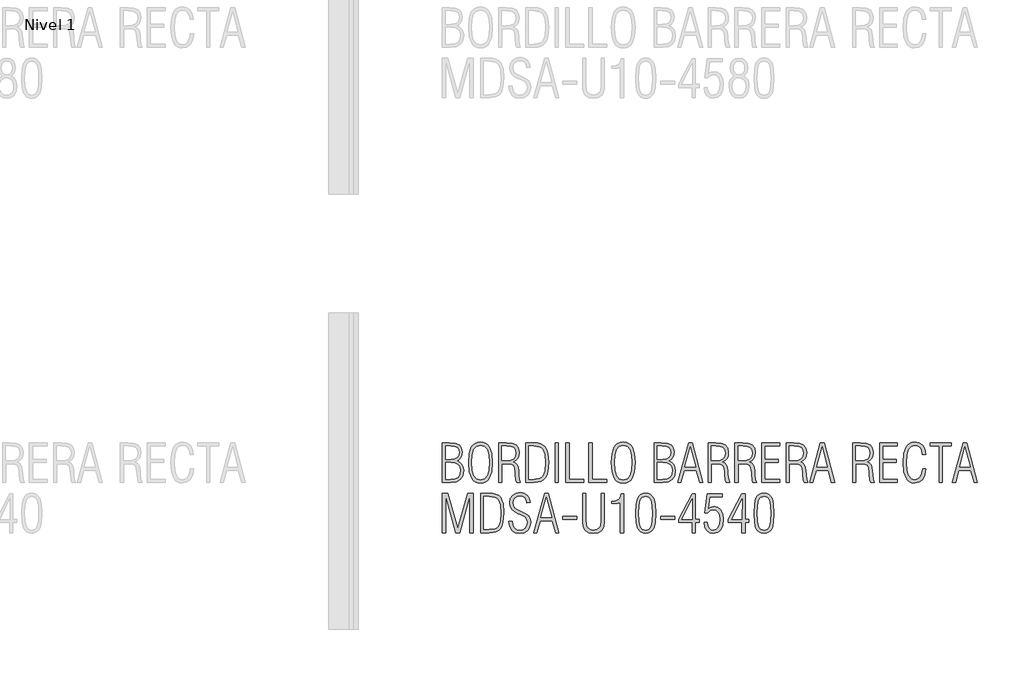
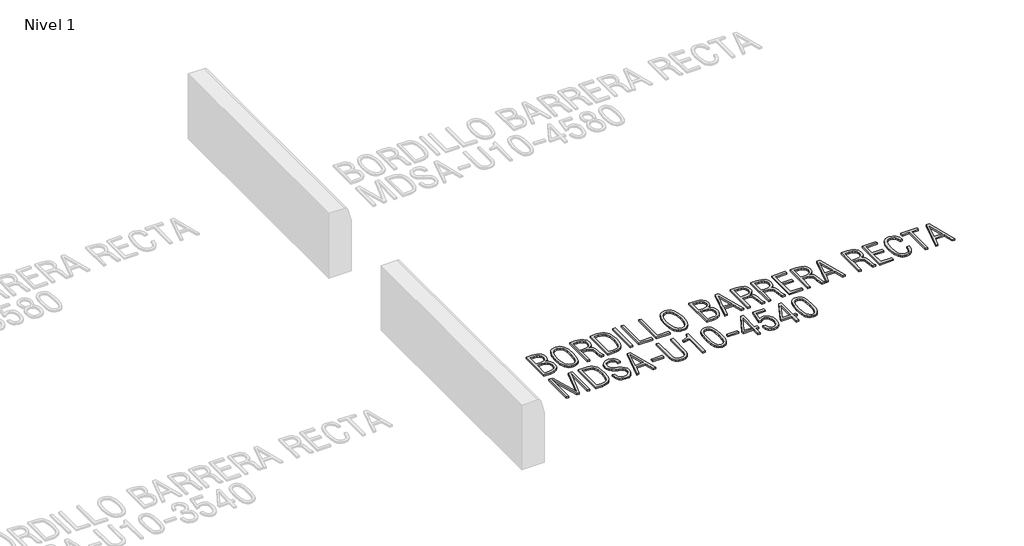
# One storey, part 3 of 4: 1 proxy.
"""IFC4 building model written with IfcOpenShell, lengths in millimetres."""

import ifcopenshell
import ifcopenshell.guid

model = None  # the IFC model being written
_history = None  # IfcOwnerHistory: only IFC2X3 demands one
_inside = {}  # id of a spatial element -> (the spatial element, [elements in it])
_under = {}  # id of a project, library or spatial element -> (it, [spatial elements below it])
_declared = {}  # id of a project -> (the project, [libraries it declares])
_typed = {}  # id of a type object -> (the type object, [elements of that type])
_made_of = {}  # id of a material, layer set ... -> (it, [elements and type objects made of it])


def new_model(schema):
    """Start an empty IFC model of exactly this schema.

    Asked for "IFC4X3", IfcOpenShell would pick the latest addendum, in which some entities
    have other attributes; the version numbers below select the first issue.
    IFC2X3 requires an IfcOwnerHistory on every rooted entity: one is made here for all.
    """
    global model, _history
    if schema == "IFC4X3":
        model = ifcopenshell.file(schema_version=(4, 3, 0, 0))
    else:
        model = ifcopenshell.file(schema=schema)
    _inside.clear()
    _under.clear()
    _declared.clear()
    _typed.clear()
    _made_of.clear()
    _history = None
    if model.schema == "IFC2X3":
        org = make("IfcOrganization", Name="unknown")
        user = make(
            "IfcPersonAndOrganization",
            ThePerson=make("IfcPerson", FamilyName="unknown"),
            TheOrganization=org,
        )
        app = make(
            "IfcApplication",
            ApplicationDeveloper=org,
            Version="unknown",
            ApplicationFullName="unknown",
            ApplicationIdentifier="unknown",
        )
        _history = make(
            "IfcOwnerHistory",
            OwningUser=user,
            OwningApplication=app,
            ChangeAction="ADDED",
            CreationDate=0,
        )
    return model


def make(cls, **values):
    """One entity of the class cls with the attributes given. An attribute that is None is left unset."""
    return model.create_entity(
        cls, **{name: value for name, value in values.items() if value is not None}
    )


def rooted(cls, **values):
    """An entity with a GlobalId (a new one), such as an element, a storey or a relation."""
    return make(cls, GlobalId=ifcopenshell.guid.new(), OwnerHistory=_history, **values)


def si_unit(unit_type, name, prefix=None):
    """IfcSIUnit, for example si_unit("LENGTHUNIT", "METRE", prefix="MILLI")."""
    return make("IfcSIUnit", UnitType=unit_type, Prefix=prefix, Name=name)


def assignment(units):
    """IfcUnitAssignment: the units of a project."""
    return None if units is None else make("IfcUnitAssignment", Units=units)


def point(xyz):
    """IfcCartesianPoint."""
    return None if xyz is None else make("IfcCartesianPoint", Coordinates=xyz)


def direction(xyz):
    """IfcDirection."""
    return None if xyz is None else make("IfcDirection", DirectionRatios=xyz)


def frame(location, z_axis=None, x_axis=None):
    """IfcAxis2Placement3D, a coordinate frame: its origin and axes. An axis left out is left unset."""
    return make(
        "IfcAxis2Placement3D",
        Location=point(location),
        Axis=direction(z_axis),
        RefDirection=direction(x_axis),
    )


def origin():
    """The frame at (0, 0, 0) with its axes left unset."""
    return frame((0.0, 0.0, 0.0))


def origin_with_axes():
    """The frame at (0, 0, 0) with the z axis (0, 0, 1) and the x axis (1, 0, 0) written out."""
    return frame((0.0, 0.0, 0.0), z_axis=(0.0, 0.0, 1.0), x_axis=(1.0, 0.0, 0.0))


def place(relative_to, where):
    """IfcLocalPlacement: puts the frame where relative to a parent placement (None: the world)."""
    return make(
        "IfcLocalPlacement", PlacementRelTo=relative_to, RelativePlacement=where
    )


def context(
    kind, dimensions, precision=None, world=None, true_north=None, identifier=None
):
    """IfcGeometricRepresentationContext, for example the 3D "Model" context."""
    return make(
        "IfcGeometricRepresentationContext",
        ContextIdentifier=identifier,
        ContextType=kind,
        CoordinateSpaceDimension=dimensions,
        Precision=precision,
        WorldCoordinateSystem=world,
        TrueNorth=true_north,
    )


def project(units=None, contexts=None):
    """IfcProject with its units and contexts."""
    return rooted(
        "IfcProject",
        Name="project",
        RepresentationContexts=contexts,
        UnitsInContext=assignment(units),
    )


def spatial(cls, under=None, at=None, **own):
    """A site, building, storey or space (cls), placed at a placement, below another one or the project."""
    s = rooted(cls, ObjectPlacement=at, **own)
    if under is not None:
        _under.setdefault(under.id(), (under, []))[1].append(s)
    return s


def polyline(points):
    """IfcPolyline through the points."""
    return make("IfcPolyline", Points=[point(p) for p in points])


def outline(outer, holes=None, kind="AREA"):
    """IfcArbitraryClosedProfileDef: a profile drawn as a closed curve; with holes, ...WithVoids."""
    if holes is None:
        return make("IfcArbitraryClosedProfileDef", ProfileType=kind, OuterCurve=outer)
    return make(
        "IfcArbitraryProfileDefWithVoids",
        ProfileType=kind,
        OuterCurve=outer,
        InnerCurves=holes,
    )


def extrude(swept, where, along, depth):
    """IfcExtrudedAreaSolid: the profile swept, set in the frame where, extruded along a direction by depth."""
    return make(
        "IfcExtrudedAreaSolid",
        SweptArea=swept,
        Position=where,
        ExtrudedDirection=direction(along),
        Depth=depth,
    )


def shape(context_of_items, identifier, shape_type, items):
    """IfcShapeRepresentation: the items that make up one representation, for example the "Body"."""
    return make(
        "IfcShapeRepresentation",
        ContextOfItems=context_of_items,
        RepresentationIdentifier=identifier,
        RepresentationType=shape_type,
        Items=items,
    )


def made_of(thing, what):
    """Note that an element or type object is made of a material, layer set ...; save() writes the relation."""
    if what is not None:
        _made_of.setdefault(what.id(), (what, []))[1].append(thing)
    return thing


def element(
    cls,
    number,
    at=None,
    inside=None,
    cuts=None,
    type_object=None,
    material=None,
    context=None,
    identifier="Body",
    shape_type=None,
    held_by="IfcProductDefinitionShape",
    body=None,
    shapes=None,
    **own,
):
    """One element of the class cls, such as IfcWall. Its Tag is "e" and its number.

    at: its placement. inside: the storey or other place that contains it. cuts: it is an
    opening in that element (IfcRelVoidsElement). A single representation is given by context,
    identifier, shape_type and body (its items); several are given by shapes. held_by: the class
    of the entity that holds the representations. save() writes the other relations.
    """
    e = rooted(cls, Tag="e%d" % number, ObjectPlacement=at, **own)
    if body is not None:
        shapes = [shape(context, identifier, shape_type, body)]
    if shapes is not None:
        e.Representation = make(held_by, Representations=shapes)
    if inside is not None:
        _inside.setdefault(inside.id(), (inside, []))[1].append(e)
    if cuts is not None:
        rooted(
            "IfcRelVoidsElement", RelatingBuildingElement=cuts, RelatedOpeningElement=e
        )
    if type_object is not None:
        _typed.setdefault(type_object.id(), (type_object, []))[1].append(e)
    return made_of(e, material)


def aggregate(whole, parts):
    """IfcRelAggregates: a whole, such as a stair, and the parts it consists of."""
    return rooted("IfcRelAggregates", RelatingObject=whole, RelatedObjects=parts)


def save(model, path):
    """Write the relations noted so far, then the file.

    IfcRelAggregates (storeys below a building ...), IfcRelContainedInSpatialStructure (elements
    in a storey), IfcRelDefinesByType, IfcRelAssociatesMaterial and IfcRelDeclares: one each for
    every whole, place, type object, material and project.
    """
    for whole, parts in _under.values():
        aggregate(whole, parts)
    for where, things in _inside.values():
        rooted(
            "IfcRelContainedInSpatialStructure",
            RelatedElements=things,
            RelatingStructure=where,
        )
    for kind, things in _typed.values():
        rooted("IfcRelDefinesByType", RelatedObjects=things, RelatingType=kind)
    for what, things in _made_of.values():
        rooted("IfcRelAssociatesMaterial", RelatedObjects=things, RelatingMaterial=what)
    for by, libraries in _declared.values():
        rooted("IfcRelDeclares", RelatingContext=by, RelatedDefinitions=libraries)
    model.write(path)


model = new_model("IFC4")

# Units and contexts
model_context = context("Model", 3, world=origin())
ifc_project = project(units=[si_unit("LENGTHUNIT", "METRE", prefix="MILLI")], contexts=[model_context])

# Site, building, storey
site = spatial("IfcSite", under=ifc_project)
building = spatial("IfcBuilding", under=site)
storey = spatial("IfcBuildingStorey", under=building, Name="Nivel 1", Elevation=0.0)

# Proxy
placement = place(None, origin())
element("IfcBuildingElementProxy", 1, Name="200mm", ObjectType="200mm", at=placement, inside=storey, context=model_context, shape_type="SweptSolid", body=[
    extrude(outline(polyline([(-268.5349981, 2081.6050587), (-268.5349981, 2282.0976811), (-232.7110895, 2282.0976811), (-202.9946773, 2279.3249915), (-183.1689986, 2271.0069224), (-172.0087648, 2256.4234589), (-168.2886868, 2234.8545859), (-169.8739832, 2219.5826869), (-174.6298723, 2207.3171667), (-182.6447771, 2197.8559158), (-194.0071205, 2190.9968247), (-179.5941869, 2182.7924423), (-169.6023986, 2172.1248503), (-163.7664868, 2158.5266706), (-161.8211829, 2141.530525), (-165.7307385, 2114.9025985), (-177.4594053, 2096.2579973), (-197.360875, 2085.2682933), (-225.7888391, 2081.6050587), (-268.5349981, 2081.6050587)]), holes=[polyline([(-252.3662382, 2097.7738185), (-227.9615162, 2097.7738185), (-204.9778767, 2100.3317669), (-189.5859752, 2108.0056119), (-180.8889509, 2121.5153687), (-177.9899427, 2141.5810523), (-180.9394782, 2159.5624818), (-189.7880847, 2172.0743229), (-204.8894538, 2179.4071082), (-226.5972771, 2181.8513699), (-252.3662382, 2181.8513699), (-252.3662382, 2097.7738185)]), polyline([(-252.3662382, 2198.0201298), (-227.4057151, 2198.0201298), (-207.9842555, 2200.1549114), (-194.68924, 2206.5592561), (-187.015395, 2217.6247511), (-184.4574467, 2233.7429836), (-187.015395, 2248.7243502), (-194.68924, 2258.6024519), (-208.6284795, 2264.0973039), (-229.9826112, 2265.9289213), (-252.3662382, 2265.9289213), (-252.3662382, 2198.0201298)])]), origin_with_axes(), (0.0, 0.0, 1.0), 10.0),
    extrude(outline(polyline([(-135.9511671, 2182.0534794), (-132.3321438, 2228.2797113), (-121.4750742, 2260.3456464), (-113.2154275, 2271.2769281), (-102.91258, 2279.0849864), (-90.5665318, 2283.7698214), (-76.1772829, 2285.3314331), (-61.7438225, 2283.7745584), (-49.3661947, 2279.1039342), (-39.0443995, 2271.3195605), (-30.7784368, 2260.4214374), (-19.9213672, 2228.3744501), (-16.302344, 2182.0534794), (-19.9403149, 2135.6819813), (-30.8542278, 2103.4834119), (-39.1438752, 2092.4968658), (-49.4609335, 2084.649333), (-61.8054028, 2079.9408133), (-76.1772829, 2078.3713067), (-90.5049515, 2079.9408133), (-102.8178411, 2084.649333), (-113.1159517, 2092.4968658), (-121.3992832, 2103.4834119), (-132.3131961, 2135.6819813), (-135.9511671, 2182.0534794)]), holes=[polyline([(-119.7824072, 2181.8513699), (-117.1107722, 2143.0842417), (-109.0958674, 2115.913146), (-95.4976877, 2099.8833364), (-76.0762281, 2094.5400666), (-56.6358207, 2099.8517568), (-43.0818525, 2115.7868276), (-35.123791, 2142.9263437), (-32.4711038, 2181.8513699), (-35.123791, 2220.7763961), (-43.0818525, 2247.9159122), (-56.6358207, 2263.850983), (-76.0762281, 2269.1626732), (-95.4976877, 2263.8194034), (-109.0958674, 2247.7895938), (-117.1107722, 2220.6184981), (-119.7824072, 2181.8513699)])]), origin_with_axes(), (0.0, 0.0, 1.0), 10.0),
    extrude(outline(polyline([(16.0351758, 2081.6050587), (16.0351758, 2282.0976811), (55.0928364, 2282.0976811), (83.9565991, 2279.0913024), (103.9528076, 2270.072166), (115.6246312, 2254.6992123), (119.515239, 2232.6313814), (117.6457262, 2215.4141785), (112.0371876, 2201.7591555), (102.550673, 2191.4263074), (89.0472321, 2184.1756291), (100.8390582, 2178.7881478), (108.8286993, 2170.609029), (113.7361706, 2158.0466605), (116.2814871, 2139.50943), (117.0393977, 2121.7237941), (119.8310351, 2095.7527235), (125.982743, 2081.6050587), (107.3886691, 2081.6050587), (103.119106, 2093.7442604), (100.8201104, 2118.5405695), (100.1127272, 2131.8797964), (97.2389827, 2154.212896), (91.3462277, 2167.1479039), (80.9439044, 2173.3248754), (64.5414554, 2175.3838659), (32.2039357, 2175.3838659), (32.2039357, 2081.6050587), (16.0351758, 2081.6050587)]), holes=[polyline([(32.2039357, 2191.5526258), (49.8379894, 2191.5526258), (74.6848259, 2193.8074099), (91.1188545, 2200.5717622), (100.289573, 2212.5025385), (103.3464791, 2230.2565948), (100.4411551, 2246.3685114), (91.725183, 2257.4150586), (76.6301298, 2263.8004556), (54.5875626, 2265.9289213), (32.2039357, 2265.9289213), (32.2039357, 2191.5526258)])]), origin_with_axes(), (0.0, 0.0, 1.0), 10.0),
    extrude(outline(polyline([(151.8527588, 2081.6050587), (151.8527588, 2282.0976811), (193.6388976, 2282.0976811), (212.6798229, 2280.7018624), (228.673316, 2276.5144063), (241.6193767, 2269.5353126), (251.5180052, 2259.7645816), (258.8460535, 2246.5295674), (264.0803737, 2229.1576244), (268.2678299, 2182.002952), (264.061426, 2134.8735433), (258.8034211, 2117.4573889), (251.4422142, 2104.1402677), (241.519901, 2094.2811138), (228.5785771, 2087.2388609), (212.6182427, 2083.0135092), (193.6388976, 2081.6050587), (151.8527588, 2081.6050587)]), holes=[polyline([(168.0215187, 2097.7738185), (192.5272954, 2097.7738185), (221.3531626, 2102.100225), (231.7302221, 2107.508233), (239.416699, 2115.0794443), (248.9284773, 2140.3620794), (252.09907, 2181.598733), (248.9284773, 2223.1511827), (239.416699, 2248.5727681), (231.7302221, 2256.1660851), (221.3531626, 2261.589883), (192.5272954, 2265.9289213), (168.0215187, 2265.9289213), (168.0215187, 2097.7738185)])]), origin_with_axes(), (0.0, 0.0, 1.0), 10.0),
    extrude(outline(polyline([(300.6053497, 2081.6050587), (300.6053497, 2282.0976811), (316.7741095, 2282.0976811), (316.7741095, 2081.6050587), (300.6053497, 2081.6050587)])), origin_with_axes(), (0.0, 0.0, 1.0), 10.0),
    extrude(outline(polyline([(355.5791333, 2081.6050587), (355.5791333, 2282.0976811), (371.7478931, 2282.0976811), (371.7478931, 2097.7738185), (446.1241886, 2097.7738185), (446.1241886, 2081.6050587), (355.5791333, 2081.6050587)])), origin_with_axes(), (0.0, 0.0, 1.0), 10.0),
    extrude(outline(polyline([(471.9942044, 2081.6050587), (471.9942044, 2282.0976811), (488.1629643, 2282.0976811), (488.1629643, 2097.7738185), (562.5392597, 2097.7738185), (562.5392597, 2081.6050587), (471.9942044, 2081.6050587)])), origin_with_axes(), (0.0, 0.0, 1.0), 10.0),
    extrude(outline(polyline([(585.1755235, 2182.0534794), (588.7945467, 2228.2797113), (599.6516164, 2260.3456464), (607.9112631, 2271.2769281), (618.2141106, 2279.0849864), (630.5601588, 2283.7698214), (644.9494077, 2285.3314331), (659.3828681, 2283.7745584), (671.7604959, 2279.1039342), (682.0822911, 2271.3195605), (690.3482538, 2260.4214374), (701.2053234, 2228.3744501), (704.8243466, 2182.0534794), (701.1863757, 2135.6819813), (690.2724627, 2103.4834119), (681.9828153, 2092.4968658), (671.665757, 2084.649333), (659.3212878, 2079.9408133), (644.9494077, 2078.3713067), (630.621739, 2079.9408133), (618.3088494, 2084.649333), (608.0107389, 2092.4968658), (599.7274074, 2103.4834119), (588.8134945, 2135.6819813), (585.1755235, 2182.0534794)]), holes=[polyline([(601.3442834, 2181.8513699), (604.0159183, 2143.0842417), (612.0308231, 2115.913146), (625.6290028, 2099.8833364), (645.0504625, 2094.5400666), (664.4908698, 2099.8517568), (678.0448381, 2115.7868276), (686.0028996, 2142.9263437), (688.6555867, 2181.8513699), (686.0028996, 2220.7763961), (678.0448381, 2247.9159122), (664.4908698, 2263.850983), (645.0504625, 2269.1626732), (625.6290028, 2263.8194034), (612.0308231, 2247.7895938), (604.0159183, 2220.6184981), (601.3442834, 2181.8513699)])]), origin_with_axes(), (0.0, 0.0, 1.0), 10.0),
    extrude(outline(polyline([(801.8369059, 2081.6050587), (801.8369059, 2282.0976811), (837.6608145, 2282.0976811), (867.3772267, 2279.3249915), (887.2029053, 2271.0069224), (898.3631392, 2256.4234589), (902.0832171, 2234.8545859), (900.4979208, 2219.5826869), (895.7420316, 2207.3171667), (887.7271268, 2197.8559158), (876.3647835, 2190.9968247), (890.7777171, 2182.7924423), (900.7695054, 2172.1248503), (906.6054172, 2158.5266706), (908.5507211, 2141.530525), (904.6411655, 2114.9025985), (892.9124987, 2096.2579973), (873.011029, 2085.2682933), (844.5830648, 2081.6050587), (801.8369059, 2081.6050587)]), holes=[polyline([(818.0056658, 2198.0201298), (842.9661888, 2198.0201298), (862.3876485, 2200.1549114), (875.6826639, 2206.5592561), (883.3565089, 2217.6247511), (885.9144573, 2233.7429836), (883.3565089, 2248.7243502), (875.6826639, 2258.6024519), (861.7434244, 2264.0973039), (840.3892927, 2265.9289213), (818.0056658, 2265.9289213), (818.0056658, 2198.0201298)]), polyline([(818.0056658, 2097.7738185), (842.4103877, 2097.7738185), (865.3940272, 2100.3317669), (880.7859287, 2108.0056119), (889.4829531, 2121.5153687), (892.3819612, 2141.5810523), (889.4324257, 2159.5624818), (880.5838192, 2172.0743229), (865.4824502, 2179.4071082), (843.7746268, 2181.8513699), (818.0056658, 2181.8513699), (818.0056658, 2097.7738185)])]), origin_with_axes(), (0.0, 0.0, 1.0), 10.0),
    extrude(outline(polyline([(921.485729, 2081.6050587), (975.0447461, 2282.0976811), (994.5988401, 2282.0976811), (1047.6020561, 2081.6050587), (1030.7764403, 2081.6050587), (1014.0013519, 2143.0463462), (954.0758856, 2143.0463462), (936.997633, 2081.6050587), (921.485729, 2081.6050587)]), holes=[polyline([(956.9054186, 2159.2151061), (1010.6160178, 2159.2151061), (983.8870367, 2259.9161637), (956.9054186, 2159.2151061)])]), origin_with_axes(), (0.0, 0.0, 1.0), 10.0),
    extrude(outline(polyline([(1073.4720719, 2081.6050587), (1073.4720719, 2282.0976811), (1112.5297324, 2282.0976811), (1141.3934952, 2279.0913024), (1161.3897037, 2270.072166), (1173.0615272, 2254.6992123), (1176.9521351, 2232.6313814), (1175.0826222, 2215.4141785), (1169.4740836, 2201.7591555), (1159.9875691, 2191.4263074), (1146.4841282, 2184.1756291), (1158.2759542, 2178.7881478), (1166.2655953, 2170.609029), (1171.1730666, 2158.0466605), (1173.7183831, 2139.50943), (1174.4762937, 2121.7237941), (1177.2679312, 2095.7527235), (1183.419639, 2081.6050587), (1164.8255652, 2081.6050587), (1160.556002, 2093.7442604), (1158.2570065, 2118.5405695), (1157.5496232, 2131.8797964), (1154.6758788, 2154.212896), (1148.7831237, 2167.1479039), (1138.3808005, 2173.3248754), (1121.9783515, 2175.3838659), (1089.6408317, 2175.3838659), (1089.6408317, 2081.6050587), (1073.4720719, 2081.6050587)]), holes=[polyline([(1089.6408317, 2191.5526258), (1107.2748855, 2191.5526258), (1132.1217219, 2193.8074099), (1148.5557505, 2200.5717622), (1157.726469, 2212.5025385), (1160.7833752, 2230.2565948), (1157.8780512, 2246.3685114), (1149.162079, 2257.4150586), (1134.0670259, 2263.8004556), (1112.0244587, 2265.9289213), (1089.6408317, 2265.9289213), (1089.6408317, 2191.5526258)])]), origin_with_axes(), (0.0, 0.0, 1.0), 10.0),
    extrude(outline(polyline([(1209.2896548, 2081.6050587), (1209.2896548, 2282.0976811), (1248.3473154, 2282.0976811), (1277.2110782, 2279.0913024), (1297.2072867, 2270.072166), (1308.8791102, 2254.6992123), (1312.7697181, 2232.6313814), (1310.9002052, 2215.4141785), (1305.2916666, 2201.7591555), (1295.805152, 2191.4263074), (1282.3017112, 2184.1756291), (1294.0935372, 2178.7881478), (1302.0831783, 2170.609029), (1306.9906496, 2158.0466605), (1309.5359661, 2139.50943), (1310.2938767, 2121.7237941), (1313.0855141, 2095.7527235), (1319.237222, 2081.6050587), (1300.6431481, 2081.6050587), (1296.373585, 2093.7442604), (1294.0745894, 2118.5405695), (1293.3672062, 2131.8797964), (1290.4934618, 2154.212896), (1284.6007067, 2167.1479039), (1274.1983835, 2173.3248754), (1257.7959345, 2175.3838659), (1225.4584147, 2175.3838659), (1225.4584147, 2081.6050587), (1209.2896548, 2081.6050587)]), holes=[polyline([(1225.4584147, 2191.5526258), (1243.0924685, 2191.5526258), (1267.9393049, 2193.8074099), (1284.3733335, 2200.5717622), (1293.544052, 2212.5025385), (1296.6009582, 2230.2565948), (1293.6956341, 2246.3685114), (1284.979662, 2257.4150586), (1269.8846088, 2263.8004556), (1247.8420417, 2265.9289213), (1225.4584147, 2265.9289213), (1225.4584147, 2191.5526258)])]), origin_with_axes(), (0.0, 0.0, 1.0), 10.0),
    extrude(outline(polyline([(1345.1072378, 2081.6050587), (1345.1072378, 2282.0976811), (1435.6522931, 2282.0976811), (1435.6522931, 2265.9289213), (1361.2759977, 2265.9289213), (1361.2759977, 2198.0201298), (1429.1847892, 2198.0201298), (1429.1847892, 2181.8513699), (1361.2759977, 2181.8513699), (1361.2759977, 2097.7738185), (1435.6522931, 2097.7738185), (1435.6522931, 2081.6050587), (1345.1072378, 2081.6050587)])), origin_with_axes(), (0.0, 0.0, 1.0), 10.0),
    extrude(outline(polyline([(1467.9898129, 2081.6050587), (1467.9898129, 2282.0976811), (1507.0474735, 2282.0976811), (1535.9112362, 2279.0913024), (1555.9074447, 2270.072166), (1567.5792683, 2254.6992123), (1571.4698761, 2232.6313814), (1569.6003633, 2215.4141785), (1563.9918247, 2201.7591555), (1554.5053101, 2191.4263074), (1541.0018692, 2184.1756291), (1552.7936953, 2178.7881478), (1560.7833364, 2170.609029), (1565.6908076, 2158.0466605), (1568.2361241, 2139.50943), (1568.9940348, 2121.7237941), (1571.7856722, 2095.7527235), (1577.9373801, 2081.6050587), (1559.3433062, 2081.6050587), (1555.073743, 2093.7442604), (1552.7747475, 2118.5405695), (1552.0673643, 2131.8797964), (1549.1936198, 2154.212896), (1543.3008648, 2167.1479039), (1532.8985415, 2173.3248754), (1516.4960925, 2175.3838659), (1484.1585728, 2175.3838659), (1484.1585728, 2081.6050587), (1467.9898129, 2081.6050587)]), holes=[polyline([(1484.1585728, 2191.5526258), (1501.7926265, 2191.5526258), (1526.639463, 2193.8074099), (1543.0734916, 2200.5717622), (1552.2442101, 2212.5025385), (1555.3011162, 2230.2565948), (1552.3957922, 2246.3685114), (1543.6798201, 2257.4150586), (1528.5847669, 2263.8004556), (1506.5421997, 2265.9289213), (1484.1585728, 2265.9289213), (1484.1585728, 2191.5526258)])]), origin_with_axes(), (0.0, 0.0, 1.0), 10.0),
    extrude(outline(polyline([(1587.638636, 2081.6050587), (1641.1976531, 2282.0976811), (1660.7517471, 2282.0976811), (1713.754963, 2081.6050587), (1696.9293473, 2081.6050587), (1680.1542589, 2143.0463462), (1620.2287926, 2143.0463462), (1603.15054, 2081.6050587), (1587.638636, 2081.6050587)]), holes=[polyline([(1623.0583256, 2159.2151061), (1676.7689248, 2159.2151061), (1650.0399436, 2259.9161637), (1623.0583256, 2159.2151061)])]), origin_with_axes(), (0.0, 0.0, 1.0), 10.0),
    extrude(outline(polyline([(1804.3000184, 2081.6050587), (1804.3000184, 2282.0976811), (1843.3576789, 2282.0976811), (1872.2214417, 2279.0913024), (1892.2176502, 2270.072166), (1903.8894737, 2254.6992123), (1907.7800816, 2232.6313814), (1905.9105687, 2215.4141785), (1900.3020301, 2201.7591555), (1890.8155156, 2191.4263074), (1877.3120747, 2184.1756291), (1889.1039007, 2178.7881478), (1897.0935419, 2170.609029), (1902.0010131, 2158.0466605), (1904.5463296, 2139.50943), (1905.3042402, 2121.7237941), (1908.0958777, 2095.7527235), (1914.2475855, 2081.6050587), (1895.6535117, 2081.6050587), (1891.3839485, 2093.7442604), (1889.084953, 2118.5405695), (1888.3775697, 2131.8797964), (1885.5038253, 2154.212896), (1879.6110702, 2167.1479039), (1869.208747, 2173.3248754), (1852.806298, 2175.3838659), (1820.4687782, 2175.3838659), (1820.4687782, 2081.6050587), (1804.3000184, 2081.6050587)]), holes=[polyline([(1820.4687782, 2191.5526258), (1838.102832, 2191.5526258), (1862.9496685, 2193.8074099), (1879.383697, 2200.5717622), (1888.5544155, 2212.5025385), (1891.6113217, 2230.2565948), (1888.7059977, 2246.3685114), (1879.9900255, 2257.4150586), (1864.8949724, 2263.8004556), (1842.8524052, 2265.9289213), (1820.4687782, 2265.9289213), (1820.4687782, 2191.5526258)])]), origin_with_axes(), (0.0, 0.0, 1.0), 10.0),
    extrude(outline(polyline([(1940.1176013, 2081.6050587), (1940.1176013, 2282.0976811), (2030.6626567, 2282.0976811), (2030.6626567, 2265.9289213), (1956.2863612, 2265.9289213), (1956.2863612, 2198.0201298), (2024.1951527, 2198.0201298), (2024.1951527, 2181.8513699), (1956.2863612, 2181.8513699), (1956.2863612, 2097.7738185), (2030.6626567, 2097.7738185), (2030.6626567, 2081.6050587), (1940.1176013, 2081.6050587)])), origin_with_axes(), (0.0, 0.0, 1.0), 10.0),
    extrude(outline(polyline([(2174.2614553, 2149.5138501), (2168.9623969, 2118.6732039), (2157.7137401, 2096.3843157), (2140.7175945, 2082.8745589), (2118.1760695, 2078.3713067), (2104.1168275, 2079.9408133), (2092.0534168, 2084.649333), (2081.9858374, 2092.4968658), (2073.9140893, 2103.4834119), (2063.3033407, 2135.6819813), (2059.7664244, 2182.0534794), (2063.3033407, 2228.2797113), (2073.9140893, 2260.3456464), (2081.9858374, 2271.2769281), (2092.0534168, 2279.0849864), (2104.1168275, 2283.7698214), (2118.1760695, 2285.3314331), (2140.6039079, 2281.2639795), (2157.7642675, 2269.0616185), (2168.8234466, 2249.633843), (2172.9477436, 2223.8901456), (2156.7789837, 2223.7385635), (2153.4568088, 2242.9326499), (2145.6124339, 2257.2634765), (2133.6753417, 2266.1878741), (2118.0750148, 2269.1626732), (2099.3546225, 2263.850983), (2086.2427687, 2247.9159122), (2078.5120804, 2220.7763961), (2075.9351843, 2181.8513699), (2078.5057645, 2142.9263437), (2086.2175051, 2115.7868276), (2099.310411, 2099.8517568), (2118.0244874, 2094.5400666), (2133.7953442, 2098.1211942), (2146.0419166, 2108.8645773), (2154.334722, 2126.1891508), (2158.2442776, 2149.5138501), (2174.2614553, 2149.5138501)])), origin_with_axes(), (0.0, 0.0, 1.0), 10.0),
    extrude(outline(polyline([(2240.8565351, 2081.6050587), (2240.8565351, 2265.9289213), (2195.5840074, 2265.9289213), (2195.5840074, 2282.0976811), (2302.2978226, 2282.0976811), (2302.2978226, 2265.9289213), (2257.025295, 2265.9289213), (2257.025295, 2081.6050587), (2240.8565351, 2081.6050587)])), origin_with_axes(), (0.0, 0.0, 1.0), 10.0),
    extrude(outline(polyline([(2308.7653266, 2081.6050587), (2362.3243437, 2282.0976811), (2381.8784376, 2282.0976811), (2434.8816536, 2081.6050587), (2418.0560379, 2081.6050587), (2401.2809495, 2143.0463462), (2341.3554832, 2143.0463462), (2324.2772306, 2081.6050587), (2308.7653266, 2081.6050587)]), holes=[polyline([(2344.1850162, 2159.2151061), (2397.8956154, 2159.2151061), (2371.1666342, 2259.9161637), (2344.1850162, 2159.2151061)])]), origin_with_axes(), (0.0, 0.0, 1.0), 10.0),
    extrude(outline(polyline([(-268.5349981, 1826.6312751), (-268.5349981, 2027.1238976), (-240.4923051, 2027.1238976), (-190.9249506, 1850.0254495), (-141.1049593, 2027.1238976), (-113.3149032, 2027.1238976), (-113.3149032, 1826.6312751), (-129.4836631, 1826.6312751), (-129.4836631, 2012.8246505), (-181.6784411, 1826.6312751), (-199.7672412, 1826.6312751), (-252.3662382, 2012.8246505), (-252.3662382, 1826.6312751), (-268.5349981, 1826.6312751)])), origin_with_axes(), (0.0, 0.0, 1.0), 10.0),
    extrude(outline(polyline([(-74.5098795, 1826.6312751), (-74.5098795, 2027.1238976), (-32.7237407, 2027.1238976), (-13.6828154, 2025.7280788), (2.3106777, 2021.5406227), (15.2567384, 2014.561529), (25.1553669, 2004.790798), (32.4834152, 1991.5557838), (37.7177354, 1974.1838408), (41.9051916, 1927.0291684), (37.6987877, 1879.8997598), (32.4407828, 1862.4836053), (25.0795759, 1849.1664841), (15.1572627, 1839.3073302), (2.2159388, 1832.2650773), (-13.7443956, 1828.0397256), (-32.7237407, 1826.6312751), (-74.5098795, 1826.6312751)]), holes=[polyline([(-58.3411196, 1842.8000349), (-33.8353429, 1842.8000349), (-5.0094757, 1847.1264414), (5.3675838, 1852.5344495), (13.0540607, 1860.1056608), (22.565839, 1885.3882958), (25.7364317, 1926.6249494), (22.565839, 1968.1773991), (13.0540607, 1993.5989845), (5.3675838, 2001.1923015), (-5.0094757, 2006.6160994), (-33.8353429, 2010.9551377), (-58.3411196, 2010.9551377), (-58.3411196, 1842.8000349)])]), origin_with_axes(), (0.0, 0.0, 1.0), 10.0),
    extrude(outline(polyline([(67.7752074, 1884.8388106), (83.9439673, 1884.8388106), (86.9629779, 1865.7584108), (94.5041886, 1851.4654797), (106.0749574, 1842.5410821), (121.1826424, 1839.566283), (138.0082581, 1842.2379179), (150.7916839, 1850.2528227), (158.863432, 1862.916246), (161.5540147, 1879.5334363), (158.623427, 1895.2474498), (149.0232258, 1907.272965), (125.4269419, 1918.9447885), (113.8056457, 1923.4922522), (93.9294397, 1933.9072073), (80.7860064, 1945.9516702), (73.4532211, 1960.6614522), (71.0089594, 1979.0723643), (74.7227214, 1999.4412122), (85.8640075, 2015.8815567), (102.7780462, 2026.7386263), (123.8100659, 2030.3576495), (144.8610333, 2026.9975791), (160.9224225, 2016.9173679), (171.0973726, 2000.9380857), (174.4890226, 1979.8808023), (158.3202627, 1978.6176179), (155.3201999, 1993.7379348), (148.442161, 2004.9423801), (138.0272059, 2011.8772623), (124.4163944, 2014.1888897), (109.6560851, 2011.6183095), (97.7126769, 2003.9065689), (89.8114587, 1992.2410613), (87.1777193, 1977.8091799), (89.3503964, 1964.469953), (95.767373, 1953.3539306), (106.9465546, 1945.0169138), (126.6395988, 1936.1746232), (133.1576302, 1933.5471998), (153.8864856, 1923.2964586), (167.5667723, 1911.5425281), (175.183774, 1897.1864378), (177.7227746, 1879.1292173), (174.0279603, 1855.962416), (162.9435175, 1838.3030986), (145.4420981, 1827.123917), (122.4963541, 1823.3975231), (99.7085082, 1827.3765538), (82.6807829, 1839.3136461), (71.8805566, 1858.6529987), (67.7752074, 1884.8388106)])), origin_with_axes(), (0.0, 0.0, 1.0), 10.0),
    extrude(outline(polyline([(193.8915345, 1826.6312751), (247.4505516, 2027.1238976), (267.0046455, 2027.1238976), (320.0078615, 1826.6312751), (303.1822458, 1826.6312751), (286.4071574, 1888.0725626), (226.4816911, 1888.0725626), (209.4034385, 1826.6312751), (193.8915345, 1826.6312751)]), holes=[polyline([(229.3112241, 1904.2413225), (283.0218233, 1904.2413225), (256.2928421, 2004.9423801), (229.3112241, 1904.2413225)])]), origin_with_axes(), (0.0, 0.0, 1.0), 10.0),
    extrude(outline(polyline([(339.4103734, 1894.5400666), (339.4103734, 1910.7088264), (410.5529168, 1910.7088264), (410.5529168, 1894.5400666), (339.4103734, 1894.5400666)])), origin_with_axes(), (0.0, 0.0, 1.0), 10.0),
    extrude(outline(polyline([(549.6042518, 2027.1238976), (549.6042518, 1880.847148), (546.0925993, 1856.2024211), (535.5576416, 1838.1515165), (518.3404387, 1827.0860214), (494.7820503, 1823.3975231), (470.9962887, 1827.0733896), (453.7032948, 1838.1009891), (443.1683372, 1856.1392618), (439.6566846, 1880.847148), (439.6566846, 2027.1238976), (455.8254445, 2027.1238976), (455.8254445, 1893.2263548), (457.0886289, 1868.8721602), (461.3329283, 1856.8971725), (475.0258469, 1844.0632193), (494.7820503, 1839.566283), (514.5129901, 1844.1390104), (528.2311723, 1856.8971725), (532.2228349, 1867.4573938), (533.4354919, 1884.1314274), (533.4354919, 1893.2263548), (533.4354919, 2027.1238976), (549.6042518, 2027.1238976)])), origin_with_axes(), (0.0, 0.0, 1.0), 10.0),
    extrude(outline(polyline([(630.4480512, 1826.6312751), (630.4480512, 1977.7081252), (615.0119382, 1976.0407218), (599.1716063, 1975.3838659), (592.6788387, 1975.4343933), (588.4092755, 1975.7375576), (588.4092755, 1985.0851219), (608.0328446, 1987.9714981), (621.5299696, 1994.8116415), (629.8859341, 2006.4897809), (634.0860222, 2023.8901456), (646.6168111, 2023.8901456), (646.6168111, 1826.6312751), (630.4480512, 1826.6312751)])), origin_with_axes(), (0.0, 0.0, 1.0), 10.0),
    extrude(outline(polyline([(708.0580986, 1925.4628198), (710.3065668, 1973.2364525), (717.3046082, 2000.3949164), (724.9405576, 2012.0414762), (734.3070697, 2020.4037567), (745.3915125, 2025.4438624), (758.1812542, 2027.1238976), (770.9709959, 2025.4312305), (782.0554387, 2020.3532294), (791.3587916, 2011.978317), (798.8052634, 2000.3949164), (805.9801506, 1972.2511687), (808.3044098, 1925.4628198), (806.0559417, 1877.8155056), (798.8052634, 1850.1265043), (791.3587916, 1838.5431036), (782.0554387, 1830.1681913), (770.9709959, 1825.0901901), (758.1812542, 1823.3975231), (745.3915125, 1825.0901901), (734.3070697, 1830.1681913), (724.9405576, 1838.5431036), (717.3046082, 1850.1265043), (710.3065668, 1877.3607592), (708.0580986, 1925.4628198)]), holes=[polyline([(724.2268585, 1925.3112377), (726.1658465, 1884.4345916), (731.9828105, 1858.311939), (742.448293, 1844.252697), (758.3328364, 1839.566283), (774.0531658, 1844.2211174), (784.4302253, 1858.1856205), (790.2092938, 1884.2766936), (792.13565, 1925.3112377), (790.2092938, 1966.2699908), (784.4302253, 1992.3358001), (774.0531658, 2006.3003033), (758.3328364, 2010.9551377), (742.448293, 2006.2687237), (731.9828105, 1992.2094817), (726.1658465, 1966.1120927), (724.2268585, 1925.3112377)])]), origin_with_axes(), (0.0, 0.0, 1.0), 10.0),
    extrude(outline(polyline([(834.1744257, 1894.5400666), (834.1744257, 1910.7088264), (905.3169691, 1910.7088264), (905.3169691, 1894.5400666), (834.1744257, 1894.5400666)])), origin_with_axes(), (0.0, 0.0, 1.0), 10.0),
    extrude(outline(polyline([(992.6282725, 1826.6312751), (992.6282725, 1878.3713067), (924.719481, 1878.3713067), (924.719481, 1894.5400666), (992.6282725, 2023.8901456), (1008.7970323, 2023.8901456), (1008.7970323, 1894.5400666), (1028.1995442, 1894.5400666), (1028.1995442, 1878.3713067), (1008.7970323, 1878.3713067), (1008.7970323, 1826.6312751), (992.6282725, 1826.6312751)]), holes=[polyline([(941.5450967, 1894.5400666), (992.6282725, 1894.5400666), (994.3462032, 1998.5759309), (941.5450967, 1894.5400666)])]), origin_with_axes(), (0.0, 0.0, 1.0), 10.0),
    extrude(outline(polyline([(1054.06956, 1878.3713067), (1070.2383199, 1878.3713067), (1073.45944, 1861.4256884), (1079.4848294, 1849.2928026), (1088.32712, 1841.9979129), (1099.9989435, 1839.566283), (1114.6897777, 1843.2042539), (1125.7173772, 1854.1181669), (1132.6143638, 1871.6764295), (1134.9133594, 1895.2474498), (1132.7154186, 1915.3068175), (1126.1215962, 1930.4145025), (1115.6624297, 1939.8883853), (1101.8684564, 1943.0463462), (1083.9312384, 1938.8525741), (1071.5520316, 1926.8775863), (1057.303312, 1926.8775863), (1070.6425389, 2023.8901456), (1144.6146153, 2023.8901456), (1144.6146153, 2007.7213857), (1081.6575065, 2007.7213857), (1073.4720719, 1946.9874814), (1088.0492194, 1956.233991), (1103.839024, 1959.2151061), (1123.228904, 1955.0402817), (1138.2481661, 1942.5158088), (1147.873631, 1922.7911849), (1151.0821193, 1897.0159079), (1147.7852081, 1865.3605077), (1137.8944745, 1842.2442338), (1121.7130828, 1828.1092008), (1099.5441972, 1823.3975231), (1081.1206532, 1827.0354941), (1066.9793042, 1837.949407), (1057.7517424, 1855.3308238), (1054.06956, 1878.3713067)])), origin_with_axes(), (0.0, 0.0, 1.0), 10.0),
    extrude(outline(polyline([(1244.8609266, 1826.6312751), (1244.8609266, 1878.3713067), (1176.9521351, 1878.3713067), (1176.9521351, 1894.5400666), (1244.8609266, 2023.8901456), (1261.0296864, 2023.8901456), (1261.0296864, 1894.5400666), (1280.4321983, 1894.5400666), (1280.4321983, 1878.3713067), (1261.0296864, 1878.3713067), (1261.0296864, 1826.6312751), (1244.8609266, 1826.6312751)]), holes=[polyline([(1193.7777508, 1894.5400666), (1244.8609266, 1894.5400666), (1246.5788573, 1998.5759309), (1193.7777508, 1894.5400666)])]), origin_with_axes(), (0.0, 0.0, 1.0), 10.0),
    extrude(outline(polyline([(1306.3022141, 1925.4628198), (1308.5506823, 1973.2364525), (1315.5487237, 2000.3949164), (1323.1846732, 2012.0414762), (1332.5511852, 2020.4037567), (1343.635628, 2025.4438624), (1356.4253697, 2027.1238976), (1369.2151114, 2025.4312305), (1380.2995542, 2020.3532294), (1389.6029071, 2011.978317), (1397.0493789, 2000.3949164), (1404.2242661, 1972.2511687), (1406.5485254, 1925.4628198), (1404.3000572, 1877.8155056), (1397.0493789, 1850.1265043), (1389.6029071, 1838.5431036), (1380.2995542, 1830.1681913), (1369.2151114, 1825.0901901), (1356.4253697, 1823.3975231), (1343.635628, 1825.0901901), (1332.5511852, 1830.1681913), (1323.1846732, 1838.5431036), (1315.5487237, 1850.1265043), (1308.5506823, 1877.3607592), (1306.3022141, 1925.4628198)]), holes=[polyline([(1322.470974, 1925.3112377), (1324.409962, 1884.4345916), (1330.226926, 1858.311939), (1340.6924085, 1844.252697), (1356.5769519, 1839.566283), (1372.2972813, 1844.2211174), (1382.6743408, 1858.1856205), (1388.4534093, 1884.2766936), (1390.3797655, 1925.3112377), (1388.4534093, 1966.2699908), (1382.6743408, 1992.3358001), (1372.2972813, 2006.3003033), (1356.5769519, 2010.9551377), (1340.6924085, 2006.2687237), (1330.226926, 1992.2094817), (1324.409962, 1966.1120927), (1322.470974, 1925.3112377)])]), origin_with_axes(), (0.0, 0.0, 1.0), 10.0),
])

save(model, "model.ifc")
